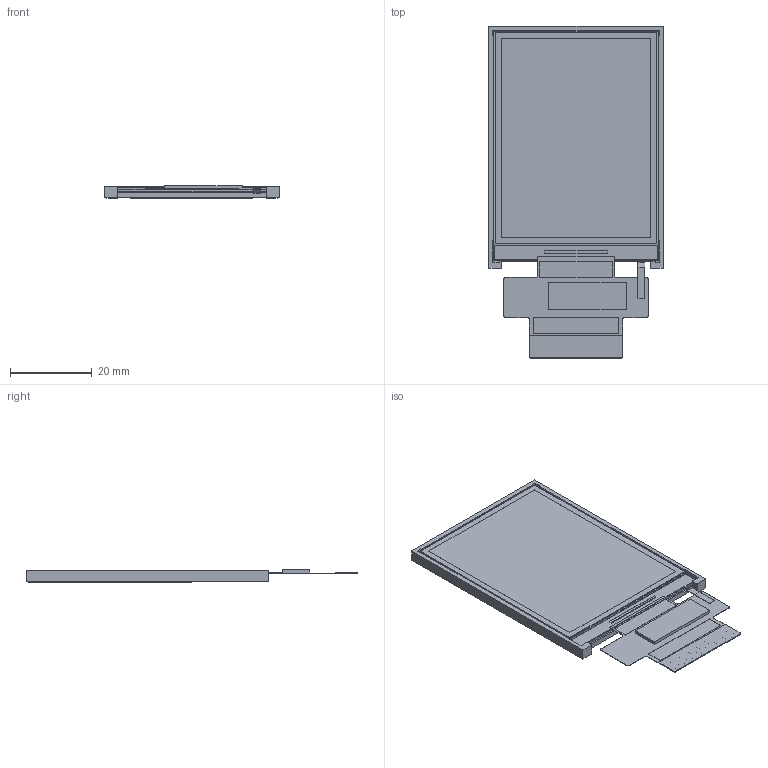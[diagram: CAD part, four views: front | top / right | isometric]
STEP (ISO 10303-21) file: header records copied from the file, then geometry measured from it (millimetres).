
FILE_DESCRIPTION (( 'STEP AP203' ), '1' );
FILE_NAME ('NHD-2.4-240320DA-CTXN_Rev1A.STEP', '2025-02-04T22:24:23', ( '' ), ( '' ), 'SwSTEP 2.0', 'SolidWorks 2019', '' );
FILE_SCHEMA (( 'CONFIG_CONTROL_DESIGN' ));
Length unit declared in the file: millimetre
Products named in the file (2): NHD-2.4-240320DA-CTXN_Rev1A
Bounding box: 42.72 x 81.46 x 3.04 mm (x, y, z)
Volume: 6653.9 mm3; surface area: 12874.5 mm2
Topology: 8 solids, 8 shells, 379 faces, 927 edges, 618 vertices
Faces by surface type: plane 364, cylinder 15
Entity records: 11072 total; most frequent: CARTESIAN_POINT 1926, ORIENTED_EDGE 1854, DIRECTION 1719, EDGE_CURVE 927, LINE 897, VECTOR 897, VERTEX_POINT 618, EDGE_LOOP 433
